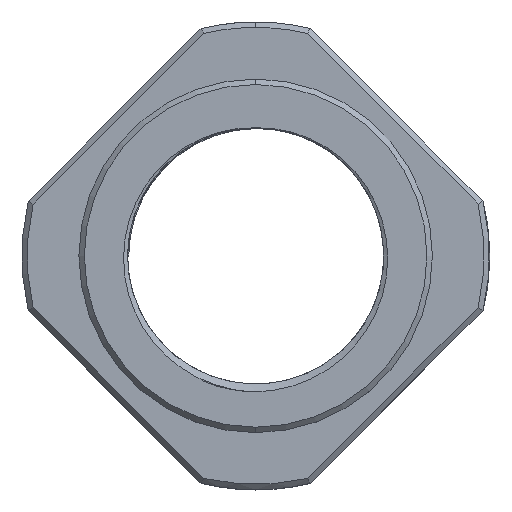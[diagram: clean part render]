
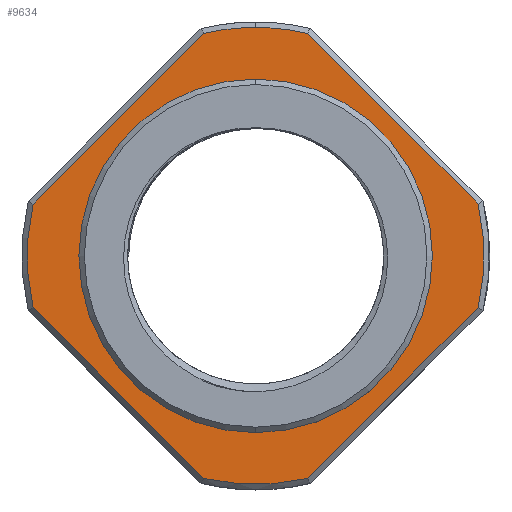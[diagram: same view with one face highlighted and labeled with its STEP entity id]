
A CAD part, top view. The second image highlights one B-rep face of the part: STEP entity #9634.
In plain terms, the highlighted planar face has unit normal (0, 0, 1).
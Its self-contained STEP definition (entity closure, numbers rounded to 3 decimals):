
#300 = DIRECTION ( 'NONE',  ( 0., -1., 0. ) ) ;
#487 = VERTEX_POINT ( 'NONE', #3724 ) ;
#916 = CARTESIAN_POINT ( 'NONE',  ( -12.271, 2.861, 7. ) ) ;
#1069 = EDGE_CURVE ( 'NONE', #8641, #15360, #9828, .T. ) ;
#1101 = DIRECTION ( 'NONE',  ( 0., 0., -1. ) ) ;
#1542 = FACE_BOUND ( 'NONE', #7833, .T. ) ;
#2086 = ORIENTED_EDGE ( 'NONE', *, *, #9578, .T. ) ;
#2144 = CIRCLE ( 'NONE', #14847, 12.6 ) ;
#2604 = DIRECTION ( 'NONE',  ( 0., 0., 1. ) ) ;
#2709 = DIRECTION ( 'NONE',  ( 0., 0., 1. ) ) ;
#2726 = DIRECTION ( 'NONE',  ( 0., 0., 1. ) ) ;
#2764 = VERTEX_POINT ( 'NONE', #6027 ) ;
#2936 = EDGE_CURVE ( 'NONE', #3123, #8049, #7372, .T. ) ;
#2937 = AXIS2_PLACEMENT_3D ( 'NONE', #3793, #12920, #5097 ) ;
#2975 = DIRECTION ( 'NONE',  ( 0., 0., 1. ) ) ;
#3123 = VERTEX_POINT ( 'NONE', #15139 ) ;
#3150 = DIRECTION ( 'NONE',  ( 0., 0., 1. ) ) ;
#3552 = EDGE_CURVE ( 'NONE', #7852, #8641, #2144, .T. ) ;
#3724 = CARTESIAN_POINT ( 'NONE',  ( 2.861, -12.271, 7. ) ) ;
#3793 = CARTESIAN_POINT ( 'NONE',  ( 0., 0., 7. ) ) ;
#4207 = CARTESIAN_POINT ( 'NONE',  ( -12.331, 2.801, 7. ) ) ;
#4256 = VERTEX_POINT ( 'NONE', #9769 ) ;
#4288 = ORIENTED_EDGE ( 'NONE', *, *, #2936, .T. ) ;
#4980 = EDGE_CURVE ( 'NONE', #16910, #10912, #10522, .T. ) ;
#5004 = AXIS2_PLACEMENT_3D ( 'NONE', #10533, #2726, #11842 ) ;
#5030 = LINE ( 'NONE', #4207, #5434 ) ;
#5097 = DIRECTION ( 'NONE',  ( 0., 1., 0. ) ) ;
#5434 = VECTOR ( 'NONE', #14123, 1000. ) ;
#5550 = AXIS2_PLACEMENT_3D ( 'NONE', #10958, #3150, #12270 ) ;
#5887 = CARTESIAN_POINT ( 'NONE',  ( 12.331, -2.801, 7. ) ) ;
#5891 = AXIS2_PLACEMENT_3D ( 'NONE', #10517, #2709, #11826 ) ;
#6027 = CARTESIAN_POINT ( 'NONE',  ( 0., 12.6, 7. ) ) ;
#6085 = DIRECTION ( 'NONE',  ( 0.707, -0.707, 0. ) ) ;
#6320 = CARTESIAN_POINT ( 'NONE',  ( 0., 12.9, 7. ) ) ;
#6386 = VECTOR ( 'NONE', #8937, 1000. ) ;
#6440 = CIRCLE ( 'NONE', #5004, 12.6 ) ;
#6726 = EDGE_CURVE ( 'NONE', #16826, #3123, #15404, .T. ) ;
#6866 = CIRCLE ( 'NONE', #5891, 12.6 ) ;
#7372 = LINE ( 'NONE', #7382, #14996 ) ;
#7382 = CARTESIAN_POINT ( 'NONE',  ( -2.801, -12.331, 7. ) ) ;
#7441 = EDGE_LOOP ( 'NONE', ( #4288, #15342, #11105, #10401, #15145, #8815, #15418, #2086, #8658 ) ) ;
#7594 = CIRCLE ( 'NONE', #11580, 9.75 ) ;
#7598 = EDGE_CURVE ( 'NONE', #15360, #2764, #14603, .T. ) ;
#7768 = CARTESIAN_POINT ( 'NONE',  ( 12.271, -2.861, 7. ) ) ;
#7833 = EDGE_LOOP ( 'NONE', ( #15751, #15828 ) ) ;
#7852 = VERTEX_POINT ( 'NONE', #7768 ) ;
#8049 = VERTEX_POINT ( 'NONE', #11878 ) ;
#8112 = DIRECTION ( 'NONE',  ( 0., 0., 1. ) ) ;
#8589 = LINE ( 'NONE', #5887, #9428 ) ;
#8641 = VERTEX_POINT ( 'NONE', #15596 ) ;
#8658 = ORIENTED_EDGE ( 'NONE', *, *, #6726, .T. ) ;
#8704 = EDGE_CURVE ( 'NONE', #8049, #487, #6440, .T. ) ;
#8731 = CARTESIAN_POINT ( 'NONE',  ( 0., 9.75, 7. ) ) ;
#8815 = ORIENTED_EDGE ( 'NONE', *, *, #7598, .T. ) ;
#8925 = PLANE ( 'NONE',  #11694 ) ;
#8937 = DIRECTION ( 'NONE',  ( -0.707, 0.707, 0. ) ) ;
#9101 = CARTESIAN_POINT ( 'NONE',  ( 2.801, 12.331, 7. ) ) ;
#9428 = VECTOR ( 'NONE', #15006, 1000. ) ;
#9578 = EDGE_CURVE ( 'NONE', #4256, #16826, #5030, .T. ) ;
#9634 = ADVANCED_FACE ( 'NONE', ( #15012, #1542 ), #8925, .F. ) ;
#9769 = CARTESIAN_POINT ( 'NONE',  ( -2.861, 12.271, 7. ) ) ;
#9828 = LINE ( 'NONE', #9101, #6386 ) ;
#10223 = EDGE_CURVE ( 'NONE', #2764, #4256, #6866, .T. ) ;
#10237 = DIRECTION ( 'NONE',  ( 0., 1., 0. ) ) ;
#10401 = ORIENTED_EDGE ( 'NONE', *, *, #3552, .T. ) ;
#10411 = CARTESIAN_POINT ( 'NONE',  ( 0., 0., 7. ) ) ;
#10517 = CARTESIAN_POINT ( 'NONE',  ( 0., 0., 7. ) ) ;
#10522 = CIRCLE ( 'NONE', #11110, 9.75 ) ;
#10533 = CARTESIAN_POINT ( 'NONE',  ( 0., 0., 7. ) ) ;
#10786 = CARTESIAN_POINT ( 'NONE',  ( 0., 0., 7. ) ) ;
#10912 = VERTEX_POINT ( 'NONE', #16253 ) ;
#10958 = CARTESIAN_POINT ( 'NONE',  ( 0., 0., 7. ) ) ;
#11105 = ORIENTED_EDGE ( 'NONE', *, *, #14051, .T. ) ;
#11110 = AXIS2_PLACEMENT_3D ( 'NONE', #15925, #8112, #300 ) ;
#11580 = AXIS2_PLACEMENT_3D ( 'NONE', #10786, #2975, #12098 ) ;
#11694 = AXIS2_PLACEMENT_3D ( 'NONE', #6320, #1101, #10237 ) ;
#11720 = DIRECTION ( 'NONE',  ( 0., 1., 0. ) ) ;
#11826 = DIRECTION ( 'NONE',  ( 0., 1., 0. ) ) ;
#11842 = DIRECTION ( 'NONE',  ( 0., 1., 0. ) ) ;
#11878 = CARTESIAN_POINT ( 'NONE',  ( -2.861, -12.271, 7. ) ) ;
#12098 = DIRECTION ( 'NONE',  ( 0., -1., 0. ) ) ;
#12270 = DIRECTION ( 'NONE',  ( 0., 1., 0. ) ) ;
#12650 = EDGE_CURVE ( 'NONE', #10912, #16910, #7594, .T. ) ;
#12920 = DIRECTION ( 'NONE',  ( 0., 0., 1. ) ) ;
#14051 = EDGE_CURVE ( 'NONE', #487, #7852, #8589, .T. ) ;
#14123 = DIRECTION ( 'NONE',  ( -0.707, -0.707, 0. ) ) ;
#14603 = CIRCLE ( 'NONE', #2937, 12.6 ) ;
#14847 = AXIS2_PLACEMENT_3D ( 'NONE', #10411, #2604, #11720 ) ;
#14996 = VECTOR ( 'NONE', #6085, 1000. ) ;
#15006 = DIRECTION ( 'NONE',  ( 0.707, 0.707, 0. ) ) ;
#15012 = FACE_OUTER_BOUND ( 'NONE', #7441, .T. ) ;
#15139 = CARTESIAN_POINT ( 'NONE',  ( -12.271, -2.861, 7. ) ) ;
#15145 = ORIENTED_EDGE ( 'NONE', *, *, #1069, .T. ) ;
#15342 = ORIENTED_EDGE ( 'NONE', *, *, #8704, .T. ) ;
#15360 = VERTEX_POINT ( 'NONE', #15978 ) ;
#15404 = CIRCLE ( 'NONE', #5550, 12.6 ) ;
#15418 = ORIENTED_EDGE ( 'NONE', *, *, #10223, .T. ) ;
#15596 = CARTESIAN_POINT ( 'NONE',  ( 12.271, 2.861, 7. ) ) ;
#15751 = ORIENTED_EDGE ( 'NONE', *, *, #12650, .F. ) ;
#15828 = ORIENTED_EDGE ( 'NONE', *, *, #4980, .F. ) ;
#15925 = CARTESIAN_POINT ( 'NONE',  ( 0., 0., 7. ) ) ;
#15978 = CARTESIAN_POINT ( 'NONE',  ( 2.861, 12.271, 7. ) ) ;
#16253 = CARTESIAN_POINT ( 'NONE',  ( 0., -9.75, 7. ) ) ;
#16826 = VERTEX_POINT ( 'NONE', #916 ) ;
#16910 = VERTEX_POINT ( 'NONE', #8731 ) ;
